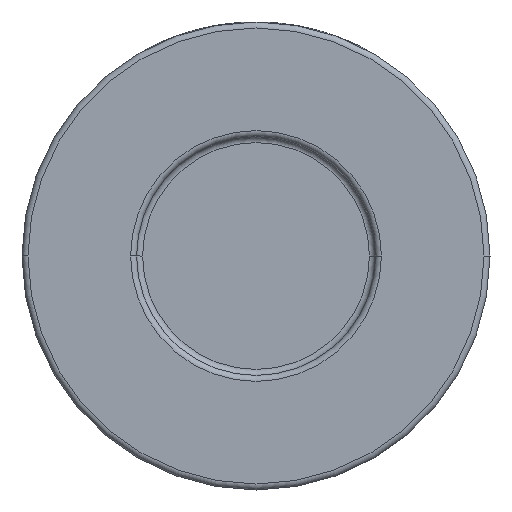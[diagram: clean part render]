
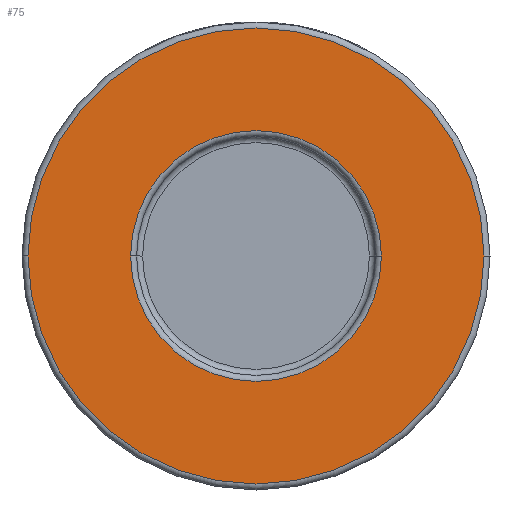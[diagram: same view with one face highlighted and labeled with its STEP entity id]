
A CAD part, front view. The second image highlights one B-rep face of the part: STEP entity #75.
In plain terms, the highlighted planar face has unit normal (0, -1, 0).
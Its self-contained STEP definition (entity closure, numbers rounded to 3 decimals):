
#40 = CARTESIAN_POINT ( 'NONE',  ( 39., -26., 0. ) ) ;
#75 = ADVANCED_FACE ( 'NONE', ( #3198, #1397 ), #4308, .T. ) ;
#211 = EDGE_LOOP ( 'NONE', ( #1707, #4552 ) ) ;
#264 = VERTEX_POINT ( 'NONE', #4437 ) ;
#357 = EDGE_CURVE ( 'NONE', #3712, #3403, #2839, .T. ) ;
#671 = DIRECTION ( 'NONE',  ( 0., 1., 0. ) ) ;
#990 = AXIS2_PLACEMENT_3D ( 'NONE', #2426, #671, #4257 ) ;
#1037 = CIRCLE ( 'NONE', #1918, 20.9 ) ;
#1055 = CARTESIAN_POINT ( 'NONE',  ( 0., -26., 0. ) ) ;
#1231 = CARTESIAN_POINT ( 'NONE',  ( 20.9, -26., 0. ) ) ;
#1397 = FACE_OUTER_BOUND ( 'NONE', #211, .T. ) ;
#1445 = DIRECTION ( 'NONE',  ( 0., -1., 0. ) ) ;
#1627 = AXIS2_PLACEMENT_3D ( 'NONE', #3530, #1799, #3480 ) ;
#1707 = ORIENTED_EDGE ( 'NONE', *, *, #3879, .T. ) ;
#1799 = DIRECTION ( 'NONE',  ( 0., -1., 0. ) ) ;
#1803 = ORIENTED_EDGE ( 'NONE', *, *, #357, .T. ) ;
#1918 = AXIS2_PLACEMENT_3D ( 'NONE', #1055, #2093, #3497 ) ;
#1990 = ORIENTED_EDGE ( 'NONE', *, *, #2810, .T. ) ;
#2093 = DIRECTION ( 'NONE',  ( 0., 1., 0. ) ) ;
#2152 = CIRCLE ( 'NONE', #3921, 38. ) ;
#2163 = CARTESIAN_POINT ( 'NONE',  ( -20.9, -26., 0. ) ) ;
#2287 = DIRECTION ( 'NONE',  ( 0., -1., 0. ) ) ;
#2426 = CARTESIAN_POINT ( 'NONE',  ( 0., -26., 0. ) ) ;
#2480 = CARTESIAN_POINT ( 'NONE',  ( 38., -26., 0. ) ) ;
#2591 = CARTESIAN_POINT ( 'NONE',  ( 0., -26., 0. ) ) ;
#2810 = EDGE_CURVE ( 'NONE', #3403, #3712, #1037, .T. ) ;
#2839 = CIRCLE ( 'NONE', #990, 20.9 ) ;
#2856 = DIRECTION ( 'NONE',  ( 1., 0., 0. ) ) ;
#2910 = AXIS2_PLACEMENT_3D ( 'NONE', #40, #1445, #2856 ) ;
#3103 = VERTEX_POINT ( 'NONE', #2480 ) ;
#3198 = FACE_BOUND ( 'NONE', #4369, .T. ) ;
#3322 = CIRCLE ( 'NONE', #1627, 38. ) ;
#3403 = VERTEX_POINT ( 'NONE', #1231 ) ;
#3480 = DIRECTION ( 'NONE',  ( 1., 0., 0. ) ) ;
#3497 = DIRECTION ( 'NONE',  ( 1., 0., 0. ) ) ;
#3530 = CARTESIAN_POINT ( 'NONE',  ( 0., -26., 0. ) ) ;
#3692 = DIRECTION ( 'NONE',  ( 1., 0., 0. ) ) ;
#3712 = VERTEX_POINT ( 'NONE', #2163 ) ;
#3879 = EDGE_CURVE ( 'NONE', #3103, #264, #2152, .T. ) ;
#3921 = AXIS2_PLACEMENT_3D ( 'NONE', #2591, #2287, #3692 ) ;
#4257 = DIRECTION ( 'NONE',  ( 1., 0., 0. ) ) ;
#4308 = PLANE ( 'NONE',  #2910 ) ;
#4369 = EDGE_LOOP ( 'NONE', ( #1990, #1803 ) ) ;
#4381 = EDGE_CURVE ( 'NONE', #264, #3103, #3322, .T. ) ;
#4437 = CARTESIAN_POINT ( 'NONE',  ( -38., -26., 0. ) ) ;
#4552 = ORIENTED_EDGE ( 'NONE', *, *, #4381, .T. ) ;
